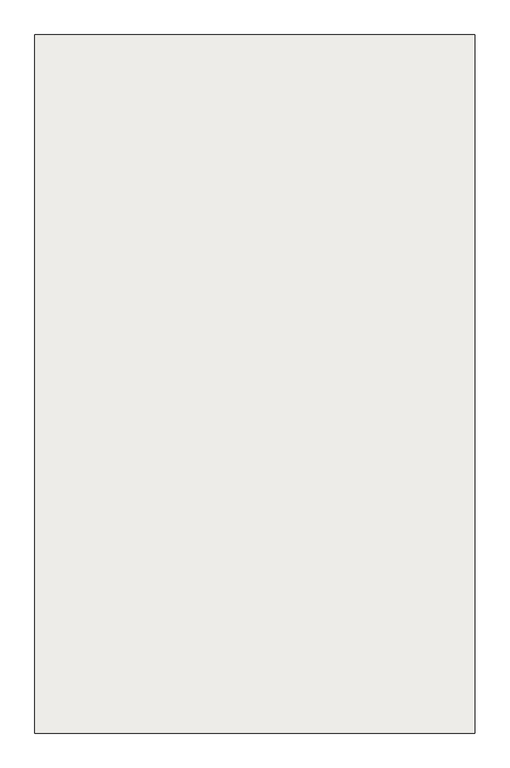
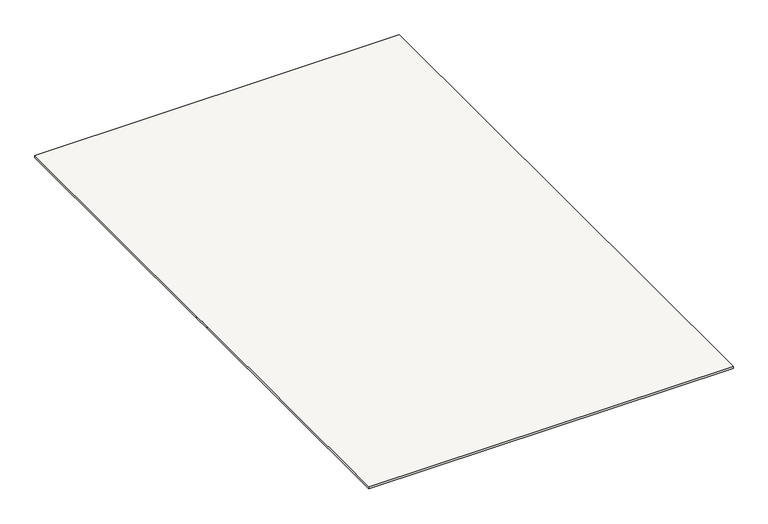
"""IFC4 building model written with IfcOpenShell, lengths in millimetres: slab geometry, Non-Monolitic_Landing."""

from ifc_helpers import new_model, si_unit, frame, origin, place, context, project, spatial, polyline, outline, extrude, source, transform, mapped, element, save


def slab_ab126f46(model_context):
    return source(origin(), model_context, "Body", "SweptSolid", [
        extrude(outline(polyline([(2198.5041438, -3354.3473686), (2198.5041438, -3274.8316761), (2198.5041438, -2084.8316761), (3748.5041438, -2084.8316761), (3748.5041438, -4544.3473686), (2198.5041438, -4544.3473686), (2198.5041438, -3354.3473686)])), frame((0.0, 0.0, 13125.0), z_axis=(0.0, 0.0, 1.0), x_axis=(1.0, 0.0, 0.0)), (0.0, 0.0, 1.0), 10.0),
    ])


if __name__ == "__main__":
    model = new_model("IFC4")
    model_context = context("Model", 3, world=origin())
    ifc_project = project(units=[si_unit("LENGTHUNIT", "METRE", prefix="MILLI")], contexts=[model_context])
    site = spatial("IfcSite", under=ifc_project)
    building = spatial("IfcBuilding", under=site)
    placement = place(None, origin())
    slab_shape = slab_ab126f46(model_context)
    element("IfcSlab", 1, ObjectType="Non-Monolitic_Landing", at=placement, inside=building, context=model_context, shape_type="MappedRepresentation", body=[
        mapped(slab_shape, transform((0.0, 0.0, 0.0), x_axis=(1.0, 0.0, 0.0), y_axis=(0.0, 1.0, 0.0), z_axis=(0.0, 0.0, 1.0))),
    ])
    save(model, "model.ifc")
